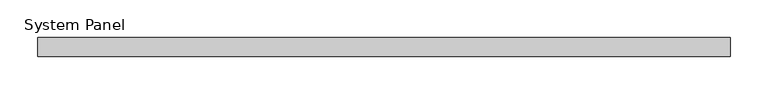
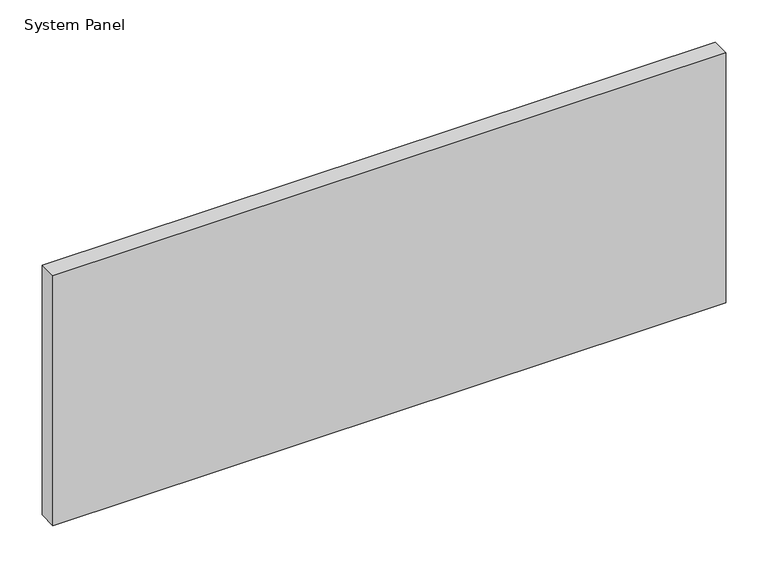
"""IFC4 building model written with IfcOpenShell, lengths in millimetres: plate geometry, System Panel : Glazed - ACMP (AL-1)."""

from ifc_helpers import new_model, si_unit, origin, origin_with_axes, place, context, project, spatial, polyline, outline, extrude, source, transform, mapped, element, save


def system_panel_04850d81(model_context):
    return source(origin(), model_context, "Body", "SweptSolid", [
        extrude(outline(polyline([(460.8431111, 0.0), (-460.8431111, 0.0), (-460.8431111, 25.4), (460.8431111, 25.4), (460.8431111, 0.0)])), origin_with_axes(), (0.0, 0.0, 1.0), 361.95),
    ])


if __name__ == "__main__":
    model = new_model("IFC4")
    model_context = context("Model", 3, world=origin())
    ifc_project = project(units=[si_unit("LENGTHUNIT", "METRE", prefix="MILLI")], contexts=[model_context])
    site = spatial("IfcSite", under=ifc_project)
    building = spatial("IfcBuilding", under=site)
    placement = place(None, origin())
    system_panel_shape = system_panel_04850d81(model_context)
    element("IfcPlate", 1, ObjectType="System Panel : Glazed - ACMP (AL-1)", at=placement, inside=building, context=model_context, shape_type="MappedRepresentation", body=[
        mapped(system_panel_shape, transform((0.0, 0.0, 0.0), x_axis=(1.0, 0.0, 0.0), y_axis=(0.0, 1.0, 0.0), z_axis=(0.0, 0.0, 1.0))),
    ])
    save(model, "model.ifc")
